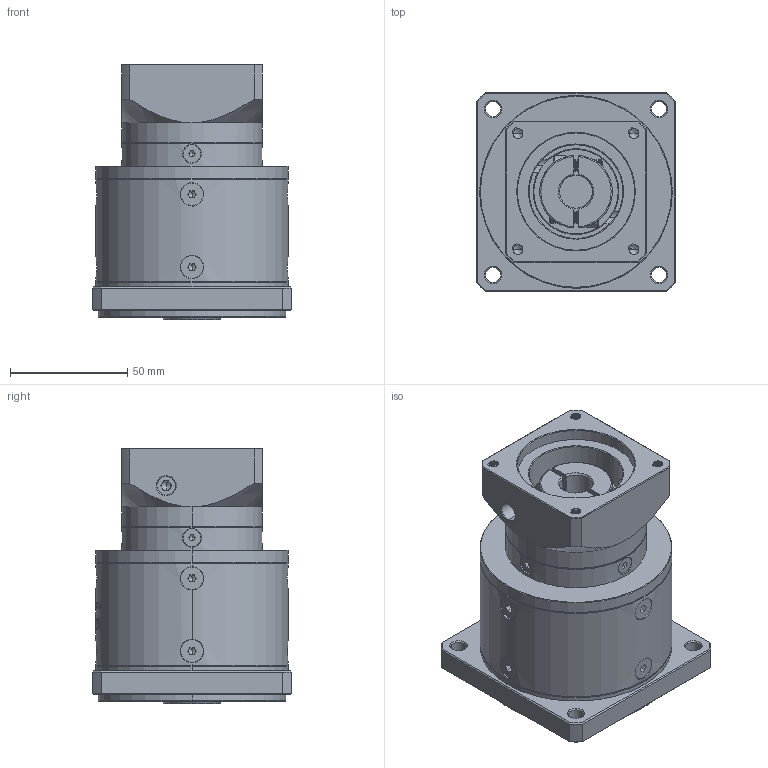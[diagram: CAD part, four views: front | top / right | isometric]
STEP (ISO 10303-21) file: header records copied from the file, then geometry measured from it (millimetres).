
FILE_DESCRIPTION (( 'STEP AP214' ), '1' );
FILE_NAME ('ZF80-K15-L2-14-50-70-M5.step', '2022-09-16T05:39:55', ( '' ), ( 'Microsoft' ), 'SwSTEP 2.0', 'SolidWorks 2016', '' );
FILE_SCHEMA (( 'AUTOMOTIVE_DESIGN' ));
Length unit declared in the file: millimetre
Products named in the file (1): ZF80-K15-L2-14-50-70-M5
Bounding box: 85 x 85 x 109 mm (x, y, z)
Volume: 452314.9 mm3; surface area: 66340.4 mm2
Topology: 18 solids, 18 shells, 1992 faces, 5216 edges, 3319 vertices
Faces by surface type: plane 941, cylinder 398, cone 321, bspline 318, torus 14
Entity records: 104754 total; most frequent: CARTESIAN_POINT 37152, ORIENTED_EDGE 10360, DIRECTION 8302, EDGE_CURVE 5180, VERTEX_POINT 3319, VECTOR 2820, LINE 2820, AXIS2_PLACEMENT_3D 2741
